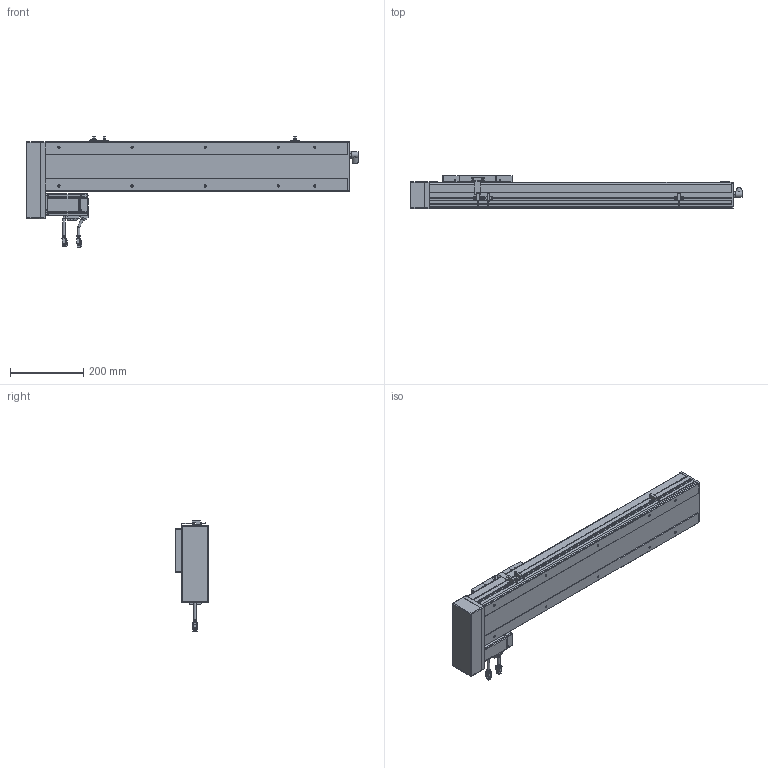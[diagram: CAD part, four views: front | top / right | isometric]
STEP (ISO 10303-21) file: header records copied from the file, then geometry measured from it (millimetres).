
FILE_DESCRIPTION(/* description */ ('STEP AP214'),/* implementation_level */ '2;1');
FILE_NAME(/* name */ 'PSC140-L05-S550-BR-P40-C1-N(0)',/* time_stamp */ '2022-06-13T03:35:06+02:00',/* author */ ('License CC BY-ND 4.0'),/* organization */ ('CADENAS'),/* preprocessor_version */ 'ST-DEVELOPER v18.102',/* originating_system */ 'PARTsolutions',/* authorisation */ ' ');
FILE_SCHEMA (('AUTOMOTIVE_DESIGN {1 0 10303 214 3 1 1}'));
Length unit declared in the file: millimetre
Products named in the file (11): PSC140-L05-S550-BR-P40-C1-N(0); P40-s2; P40-c2; P40-s1; P40-c1; P40-p1; PSC140-BR-body2; PSC140-sensor; PSC140-BR-SLIDER; PSC140-S550-BR-P40-C1_BODY1; PSC140-L05-S550-BR-P40-C1-N(0)_dummy
Assembly tree (12 placements, depth 2):
  PSC140-L05-S550-BR-P40-C1-N(0)
    P40-s2
    P40-c2
    P40-s1
    P40-c1
    P40-p1
    PSC140-BR-body2
    PSC140-sensor  x3
    PSC140-BR-SLIDER
    PSC140-S550-BR-P40-C1_BODY1
    PSC140-L05-S550-BR-P40-C1-N(0)_dummy
Bounding box: 908 x 91 x 300.88 mm (x, y, z)
Volume: 9450031.8 mm3; surface area: 582410.7 mm2
Topology: 11 solids, 11 shells, 1225 faces, 3169 edges, 2097 vertices
Faces by surface type: plane 856, cylinder 312, cone 38, torus 19
Full cylindrical faces by diameter (mm): 1 x8, 2.6 x10, 2.8 x3, 3.3 x8, 4.5 x12, 4.6 x3, 4.917 x14, 5 x4, 5.5 x8, 6 x10, 7 x10, 9 x2, 10 x1, 11 x1, 12 x1, 13.74 x1, 14 x1, 16.4 x2, 16.5 x1, 36 x1, 50 x2
Entity records: 33966 total; most frequent: CARTESIAN_POINT 5935, DIRECTION 5707, ORIENTED_EDGE 5522, EDGE_CURVE 2761, LINE 2097, VECTOR 2097, VERTEX_POINT 1918, AXIS2_PLACEMENT_3D 1805
